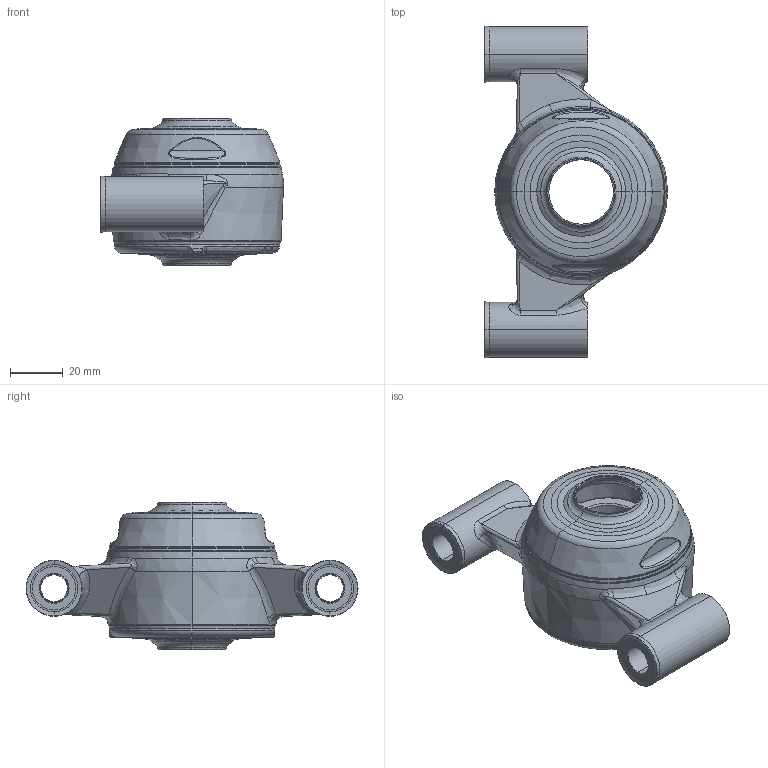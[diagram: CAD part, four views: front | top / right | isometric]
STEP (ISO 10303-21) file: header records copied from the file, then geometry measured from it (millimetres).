
FILE_DESCRIPTION (( 'STEP AP203' ), '1' );
FILE_NAME ('XBPBC52(White)-CSB2500(Front)-OM(Blue)-OS(White)_Shell.step', '2020-08-10T13:30:46', ( '' ), ( '' ), 'SwSTEP 2.0', 'SolidWorks 2019', '' );
FILE_SCHEMA (( 'CONFIG_CONTROL_DESIGN' ));
Length unit declared in the file: millimetre
Products named in the file (1): XBPBC52(White)-CSB2500(Front)-OM(Blue)-OS(White)_Shell
Bounding box: 69.69 x 126.4 x 56.34 mm (x, y, z)
Surface area: 40843.7 mm2 (no closed solid volume)
Topology: 0 solids, 29 shells, 316 faces, 904 edges, 601 vertices
Faces by surface type: bspline 88, cone 73, cylinder 60, torus 56, plane 29, sphere 10
Entity records: 16875 total; most frequent: CARTESIAN_POINT 9128, DIRECTION 1603, ORIENTED_EDGE 1530, EDGE_CURVE 904, AXIS2_PLACEMENT_3D 719, VERTEX_POINT 601, CIRCLE 490, EDGE_LOOP 341
